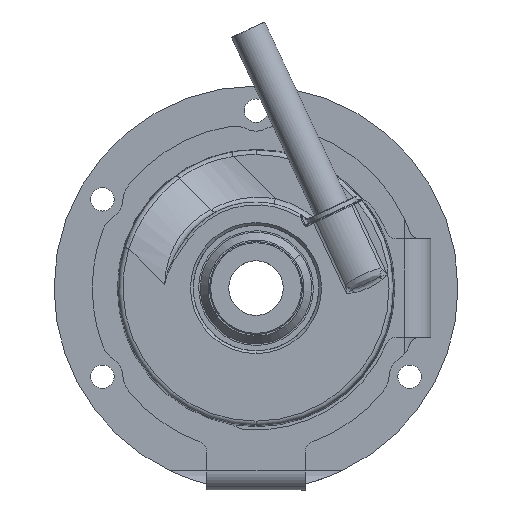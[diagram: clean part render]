
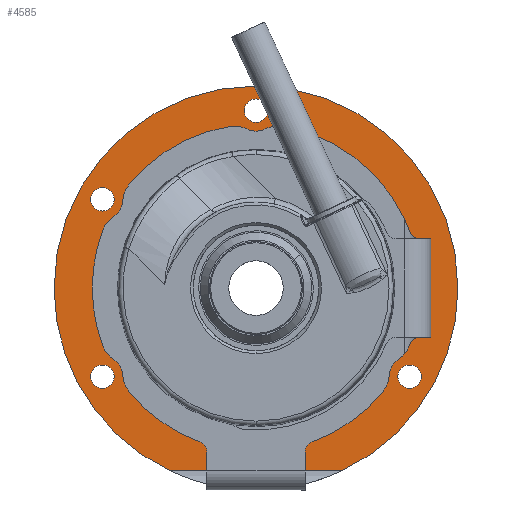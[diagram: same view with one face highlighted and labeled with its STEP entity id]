
A CAD part, left-side view. The second image highlights one B-rep face of the part: STEP entity #4585.
In plain terms, the highlighted planar face has unit normal (-1, 0, 0).
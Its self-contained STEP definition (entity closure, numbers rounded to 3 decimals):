
#2586 = CARTESIAN_POINT ( 'NONE',  ( 28.7, 15.708, -33.5 ) ) ;
#4246 = VERTEX_POINT ( 'NONE', #2586 ) ;
#4336 = EDGE_CURVE ( 'NONE', #5501, #5627, #7496, .T. ) ;
#4339 = EDGE_CURVE ( 'NONE', #5472, #5490, #7491, .T. ) ;
#4377 = EDGE_CURVE ( 'NONE', #4246, #5584, #7628, .T. ) ;
#4473 = ORIENTED_EDGE ( 'NONE', *, *, #4377, .T. ) ;
#4474 = ORIENTED_EDGE ( 'NONE', *, *, #5583, .F. ) ;
#4500 = ORIENTED_EDGE ( 'NONE', *, *, #5489, .T. ) ;
#4501 = ORIENTED_EDGE ( 'NONE', *, *, #4339, .T. ) ;
#4502 = EDGE_LOOP ( 'NONE', ( #4542, #4543 ) ) ;
#4517 = ORIENTED_EDGE ( 'NONE', *, *, #5570, .F. ) ;
#4542 = ORIENTED_EDGE ( 'NONE', *, *, #5626, .T. ) ;
#4543 = ORIENTED_EDGE ( 'NONE', *, *, #4336, .T. ) ;
#4544 = EDGE_LOOP ( 'NONE', ( #4545, #4547 ) ) ;
#4545 = ORIENTED_EDGE ( 'NONE', *, *, #5606, .T. ) ;
#4547 = ORIENTED_EDGE ( 'NONE', *, *, #4548, .T. ) ;
#4548 = EDGE_CURVE ( 'NONE', #5604, #5607, #7995, .T. ) ;
#4549 = EDGE_LOOP ( 'NONE', ( #4550, #4473, #4474, #4517 ) ) ;
#4550 = ORIENTED_EDGE ( 'NONE', *, *, #4551, .F. ) ;
#4551 = EDGE_CURVE ( 'NONE', #4246, #5404, #8047, .T. ) ;
#4573 = EDGE_CURVE ( 'NONE', #5511, #5566, #8118, .T. ) ;
#4584 = EDGE_CURVE ( 'NONE', #5482, #5485, #8158, .T. ) ;
#4585 = ADVANCED_FACE ( 'NONE', ( #8153, #8152, #8151, #8150, #8149, #8148 ), #8106, .F. ) ;
#4586 = EDGE_LOOP ( 'NONE', ( #4587, #4588 ) ) ;
#4587 = ORIENTED_EDGE ( 'NONE', *, *, #5484, .T. ) ;
#4588 = ORIENTED_EDGE ( 'NONE', *, *, #4584, .T. ) ;
#4589 = EDGE_LOOP ( 'NONE', ( #4590, #4591 ) ) ;
#4590 = ORIENTED_EDGE ( 'NONE', *, *, #5513, .T. ) ;
#4591 = ORIENTED_EDGE ( 'NONE', *, *, #4573, .T. ) ;
#4592 = EDGE_LOOP ( 'NONE', ( #4500, #4501 ) ) ;
#5404 = VERTEX_POINT ( 'NONE', #10106 ) ;
#5472 = VERTEX_POINT ( 'NONE', #14143 ) ;
#5482 = VERTEX_POINT ( 'NONE', #14122 ) ;
#5484 = EDGE_CURVE ( 'NONE', #5485, #5482, #14121, .T. ) ;
#5485 = VERTEX_POINT ( 'NONE', #14150 ) ;
#5489 = EDGE_CURVE ( 'NONE', #5490, #5472, #14034, .T. ) ;
#5490 = VERTEX_POINT ( 'NONE', #14029 ) ;
#5501 = VERTEX_POINT ( 'NONE', #13988 ) ;
#5511 = VERTEX_POINT ( 'NONE', #14161 ) ;
#5513 = EDGE_CURVE ( 'NONE', #5566, #5511, #14160, .T. ) ;
#5566 = VERTEX_POINT ( 'NONE', #14406 ) ;
#5570 = EDGE_CURVE ( 'NONE', #5404, #5581, #14397, .T. ) ;
#5581 = VERTEX_POINT ( 'NONE', #14292 ) ;
#5583 = EDGE_CURVE ( 'NONE', #5581, #5584, #14291, .T. ) ;
#5584 = VERTEX_POINT ( 'NONE', #14286 ) ;
#5604 = VERTEX_POINT ( 'NONE', #14225 ) ;
#5606 = EDGE_CURVE ( 'NONE', #5607, #5604, #14224, .T. ) ;
#5607 = VERTEX_POINT ( 'NONE', #14219 ) ;
#5626 = EDGE_CURVE ( 'NONE', #5627, #5501, #14596, .T. ) ;
#5627 = VERTEX_POINT ( 'NONE', #14591 ) ;
#7467 = DIRECTION ( 'NONE',  ( 0., -1., 0. ) ) ;
#7468 = DIRECTION ( 'NONE',  ( 1., 0., 0. ) ) ;
#7469 = CARTESIAN_POINT ( 'NONE',  ( 28.7, 0., 0. ) ) ;
#7470 = AXIS2_PLACEMENT_3D ( 'NONE', #7469, #7468, #7467 ) ;
#7491 = CIRCLE ( 'NONE', #7470, 27.5 ) ;
#7492 = DIRECTION ( 'NONE',  ( 0., -1., 0. ) ) ;
#7493 = DIRECTION ( 'NONE',  ( 1., 0., 0. ) ) ;
#7494 = CARTESIAN_POINT ( 'NONE',  ( 28.7, -28.146, -16.25 ) ) ;
#7495 = AXIS2_PLACEMENT_3D ( 'NONE', #7494, #7493, #7492 ) ;
#7496 = CIRCLE ( 'NONE', #7495, 2.15 ) ;
#7625 = DIRECTION ( 'NONE',  ( 0., -1., 0. ) ) ;
#7626 = VECTOR ( 'NONE', #7625, 1000. ) ;
#7627 = CARTESIAN_POINT ( 'NONE',  ( 28.7, -9., -33.5 ) ) ;
#7628 = LINE ( 'NONE', #7627, #7626 ) ;
#7993 = CARTESIAN_POINT ( 'NONE',  ( 28.7, 0., 32.5 ) ) ;
#7994 = AXIS2_PLACEMENT_3D ( 'NONE', #7993, #8050, #8049 ) ;
#7995 = CIRCLE ( 'NONE', #7994, 2.15 ) ;
#7996 = CARTESIAN_POINT ( 'NONE',  ( 28.7, 0., 0. ) ) ;
#8007 = DIRECTION ( 'NONE',  ( 0., -1., 0. ) ) ;
#8029 = DIRECTION ( 'NONE',  ( 0., -1., 0. ) ) ;
#8045 = DIRECTION ( 'NONE',  ( 1., 0., 0. ) ) ;
#8046 = AXIS2_PLACEMENT_3D ( 'NONE', #7996, #8045, #8007 ) ;
#8047 = CIRCLE ( 'NONE', #8046, 37. ) ;
#8049 = DIRECTION ( 'NONE',  ( 0., -1., 0. ) ) ;
#8050 = DIRECTION ( 'NONE',  ( 1., 0., 0. ) ) ;
#8101 = DIRECTION ( 'NONE',  ( 0., -1., 0. ) ) ;
#8102 = DIRECTION ( 'NONE',  ( 1., 0., 0. ) ) ;
#8103 = CARTESIAN_POINT ( 'NONE',  ( 28.7, 0., 0. ) ) ;
#8104 = AXIS2_PLACEMENT_3D ( 'NONE', #8103, #8102, #8101 ) ;
#8106 = PLANE ( 'NONE',  #8104 ) ;
#8115 = DIRECTION ( 'NONE',  ( 1., 0., 0. ) ) ;
#8116 = CARTESIAN_POINT ( 'NONE',  ( 28.7, 28.146, -16.25 ) ) ;
#8117 = AXIS2_PLACEMENT_3D ( 'NONE', #8116, #8115, #8029 ) ;
#8118 = CIRCLE ( 'NONE', #8117, 2.15 ) ;
#8148 = FACE_OUTER_BOUND ( 'NONE', #4549, .T. ) ;
#8149 = FACE_BOUND ( 'NONE', #4544, .T. ) ;
#8150 = FACE_BOUND ( 'NONE', #4502, .T. ) ;
#8151 = FACE_BOUND ( 'NONE', #4592, .T. ) ;
#8152 = FACE_BOUND ( 'NONE', #4589, .T. ) ;
#8153 = FACE_BOUND ( 'NONE', #4586, .T. ) ;
#8154 = DIRECTION ( 'NONE',  ( 0., -1., 0. ) ) ;
#8155 = DIRECTION ( 'NONE',  ( 1., 0., 0. ) ) ;
#8156 = CARTESIAN_POINT ( 'NONE',  ( 28.7, 28.146, 16.25 ) ) ;
#8157 = AXIS2_PLACEMENT_3D ( 'NONE', #8156, #8155, #8154 ) ;
#8158 = CIRCLE ( 'NONE', #8157, 2.15 ) ;
#10106 = CARTESIAN_POINT ( 'NONE',  ( 28.7, 37., 0. ) ) ;
#13988 = CARTESIAN_POINT ( 'NONE',  ( 28.7, -30.296, -16.25 ) ) ;
#14029 = CARTESIAN_POINT ( 'NONE',  ( 28.7, 27.5, 0. ) ) ;
#14030 = DIRECTION ( 'NONE',  ( 0., -1., 0. ) ) ;
#14031 = DIRECTION ( 'NONE',  ( 1., 0., 0. ) ) ;
#14032 = CARTESIAN_POINT ( 'NONE',  ( 28.7, 0., 0. ) ) ;
#14033 = AXIS2_PLACEMENT_3D ( 'NONE', #14032, #14031, #14030 ) ;
#14034 = CIRCLE ( 'NONE', #14033, 27.5 ) ;
#14121 = CIRCLE ( 'NONE', #14154, 2.15 ) ;
#14122 = CARTESIAN_POINT ( 'NONE',  ( 28.7, 25.996, 16.25 ) ) ;
#14143 = CARTESIAN_POINT ( 'NONE',  ( 28.7, -27.5, 0. ) ) ;
#14150 = CARTESIAN_POINT ( 'NONE',  ( 28.7, 30.296, 16.25 ) ) ;
#14151 = DIRECTION ( 'NONE',  ( 0., -1., 0. ) ) ;
#14152 = DIRECTION ( 'NONE',  ( 1., 0., 0. ) ) ;
#14153 = CARTESIAN_POINT ( 'NONE',  ( 28.7, 28.146, 16.25 ) ) ;
#14154 = AXIS2_PLACEMENT_3D ( 'NONE', #14153, #14152, #14151 ) ;
#14156 = DIRECTION ( 'NONE',  ( 0., -1., 0. ) ) ;
#14157 = DIRECTION ( 'NONE',  ( 1., 0., 0. ) ) ;
#14158 = CARTESIAN_POINT ( 'NONE',  ( 28.7, 28.146, -16.25 ) ) ;
#14159 = AXIS2_PLACEMENT_3D ( 'NONE', #14158, #14157, #14156 ) ;
#14160 = CIRCLE ( 'NONE', #14159, 2.15 ) ;
#14161 = CARTESIAN_POINT ( 'NONE',  ( 28.7, 25.996, -16.25 ) ) ;
#14219 = CARTESIAN_POINT ( 'NONE',  ( 28.7, 2.15, 32.5 ) ) ;
#14220 = DIRECTION ( 'NONE',  ( 0., -1., 0. ) ) ;
#14221 = DIRECTION ( 'NONE',  ( 1., 0., 0. ) ) ;
#14222 = CARTESIAN_POINT ( 'NONE',  ( 28.7, 0., 32.5 ) ) ;
#14223 = AXIS2_PLACEMENT_3D ( 'NONE', #14222, #14221, #14220 ) ;
#14224 = CIRCLE ( 'NONE', #14223, 2.15 ) ;
#14225 = CARTESIAN_POINT ( 'NONE',  ( 28.7, -2.15, 32.5 ) ) ;
#14286 = CARTESIAN_POINT ( 'NONE',  ( 28.7, -15.708, -33.5 ) ) ;
#14287 = DIRECTION ( 'NONE',  ( 0., -1., 0. ) ) ;
#14288 = DIRECTION ( 'NONE',  ( 1., 0., 0. ) ) ;
#14289 = CARTESIAN_POINT ( 'NONE',  ( 28.7, 0., 0. ) ) ;
#14290 = AXIS2_PLACEMENT_3D ( 'NONE', #14289, #14288, #14287 ) ;
#14291 = CIRCLE ( 'NONE', #14290, 37. ) ;
#14292 = CARTESIAN_POINT ( 'NONE',  ( 28.7, -37., 0. ) ) ;
#14393 = DIRECTION ( 'NONE',  ( 0., -1., 0. ) ) ;
#14394 = DIRECTION ( 'NONE',  ( 1., 0., 0. ) ) ;
#14395 = CARTESIAN_POINT ( 'NONE',  ( 28.7, 0., 0. ) ) ;
#14396 = AXIS2_PLACEMENT_3D ( 'NONE', #14395, #14394, #14393 ) ;
#14397 = CIRCLE ( 'NONE', #14396, 37. ) ;
#14406 = CARTESIAN_POINT ( 'NONE',  ( 28.7, 30.296, -16.25 ) ) ;
#14591 = CARTESIAN_POINT ( 'NONE',  ( 28.7, -25.996, -16.25 ) ) ;
#14592 = DIRECTION ( 'NONE',  ( 0., -1., 0. ) ) ;
#14593 = DIRECTION ( 'NONE',  ( 1., 0., 0. ) ) ;
#14594 = CARTESIAN_POINT ( 'NONE',  ( 28.7, -28.146, -16.25 ) ) ;
#14595 = AXIS2_PLACEMENT_3D ( 'NONE', #14594, #14593, #14592 ) ;
#14596 = CIRCLE ( 'NONE', #14595, 2.15 ) ;
